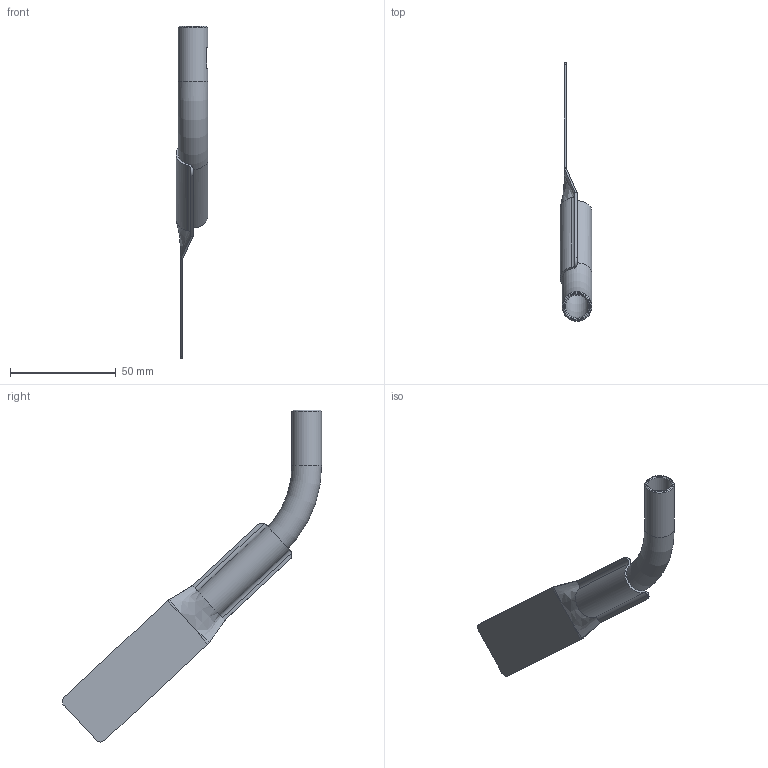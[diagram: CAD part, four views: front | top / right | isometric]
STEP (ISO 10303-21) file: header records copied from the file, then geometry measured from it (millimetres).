
FILE_DESCRIPTION(/* description */ (''),/* implementation_level */ '2;1');
FILE_NAME(/* name */ 'AC14-INOX.stp',/* time_stamp */ '2024-03-22T10:56:52+01:00',/* author */ ('filippo.guidetti'),/* organization */ (''),/* preprocessor_version */ 'ST-DEVELOPER v20',/* originating_system */ 'Autodesk Inventor 2024',/* authorisation */ '');
FILE_SCHEMA (('AUTOMOTIVE_DESIGN { 1 0 10303 214 3 1 1 }'));
Length unit declared in the file: millimetre
Products named in the file (1): AC14-INOX
Bounding box: 15 x 122.35 x 156.67 mm (x, y, z)
Volume: 9888.3 mm3; surface area: 14555.7 mm2
Topology: 1 solids, 1 shells, 60 faces, 180 edges, 114 vertices
Faces by surface type: plane 20, cylinder 18, bspline 14, cone 4, sphere 2, torus 2
Full cylindrical faces by diameter (mm): 5.5 x1, 11 x2, 14 x1
Entity records: 5378 total; most frequent: CARTESIAN_POINT 3797, ORIENTED_EDGE 344, DIRECTION 259, EDGE_CURVE 172, VERTEX_POINT 114, AXIS2_PLACEMENT_3D 101, EDGE_LOOP 64, B_SPLINE_CURVE_WITH_KNOTS 61
